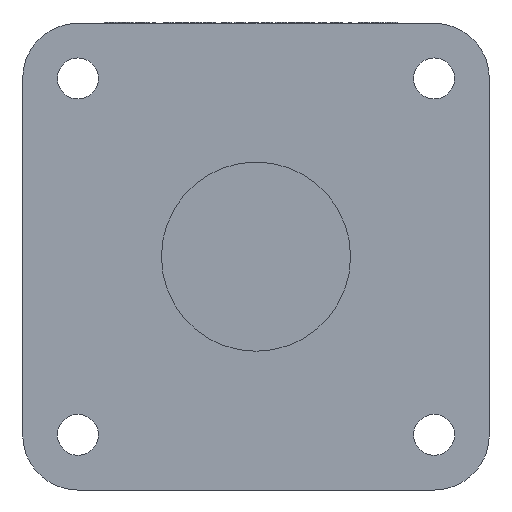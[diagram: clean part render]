
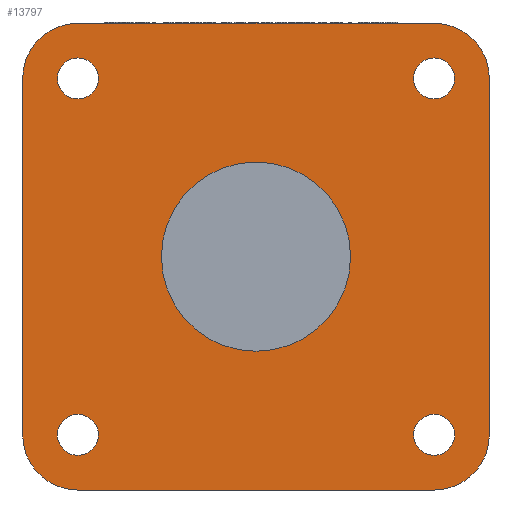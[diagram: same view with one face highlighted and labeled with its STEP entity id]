
A CAD part, left-side view. The second image highlights one B-rep face of the part: STEP entity #13797.
In plain terms, the highlighted planar face has unit normal (-1, 0, 0).
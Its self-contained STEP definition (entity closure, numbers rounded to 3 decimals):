
#12617=CARTESIAN_POINT('Line Origine',(-10.5,0.,37.)) ;
#12621=CARTESIAN_POINT('Vertex',(-10.5,28.25,37.)) ;
#12623=CARTESIAN_POINT('Vertex',(-10.5,-28.25,37.)) ;
#13372=CARTESIAN_POINT('Vertex',(-10.5,31.5,28.25)) ;
#13375=CARTESIAN_POINT('Axis2P3D Location',(-10.5,28.25,28.25)) ;
#13379=CARTESIAN_POINT('Vertex',(-10.5,25.,28.25)) ;
#13394=CARTESIAN_POINT('Axis2P3D Location',(-10.5,28.25,28.25)) ;
#13415=CARTESIAN_POINT('Vertex',(-10.5,31.5,-28.25)) ;
#13418=CARTESIAN_POINT('Axis2P3D Location',(-10.5,28.25,-28.25)) ;
#13422=CARTESIAN_POINT('Vertex',(-10.5,25.,-28.25)) ;
#13437=CARTESIAN_POINT('Axis2P3D Location',(-10.5,28.25,-28.25)) ;
#13458=CARTESIAN_POINT('Vertex',(-10.5,-31.5,-28.25)) ;
#13461=CARTESIAN_POINT('Axis2P3D Location',(-10.5,-28.25,-28.25)) ;
#13465=CARTESIAN_POINT('Vertex',(-10.5,-25.,-28.25)) ;
#13480=CARTESIAN_POINT('Axis2P3D Location',(-10.5,-28.25,-28.25)) ;
#13501=CARTESIAN_POINT('Vertex',(-10.5,-31.5,28.25)) ;
#13504=CARTESIAN_POINT('Axis2P3D Location',(-10.5,-28.25,28.25)) ;
#13508=CARTESIAN_POINT('Vertex',(-10.5,-25.,28.25)) ;
#13523=CARTESIAN_POINT('Axis2P3D Location',(-10.5,-28.25,28.25)) ;
#13681=CARTESIAN_POINT('Vertex',(-10.5,15.,0.)) ;
#13684=CARTESIAN_POINT('Axis2P3D Location',(-10.5,0.,0.)) ;
#13688=CARTESIAN_POINT('Vertex',(-10.5,-15.,0.)) ;
#13703=CARTESIAN_POINT('Axis2P3D Location',(-10.5,0.,0.)) ;
#13715=CARTESIAN_POINT('Axis2P3D Location',(-10.5,0.,0.)) ;
#13720=CARTESIAN_POINT('Axis2P3D Location',(-10.5,28.25,28.25)) ;
#13724=CARTESIAN_POINT('Vertex',(-10.5,37.,28.25)) ;
#13727=CARTESIAN_POINT('Line Origine',(-10.5,37.,0.)) ;
#13731=CARTESIAN_POINT('Vertex',(-10.5,37.,-28.25)) ;
#13734=CARTESIAN_POINT('Axis2P3D Location',(-10.5,28.25,-28.25)) ;
#13738=CARTESIAN_POINT('Vertex',(-10.5,28.25,-37.)) ;
#13741=CARTESIAN_POINT('Line Origine',(-10.5,0.,-37.)) ;
#13745=CARTESIAN_POINT('Vertex',(-10.5,-28.25,-37.)) ;
#13748=CARTESIAN_POINT('Axis2P3D Location',(-10.5,-28.25,-28.25)) ;
#13752=CARTESIAN_POINT('Vertex',(-10.5,-37.,-28.25)) ;
#13755=CARTESIAN_POINT('Line Origine',(-10.5,-37.,0.)) ;
#13759=CARTESIAN_POINT('Vertex',(-10.5,-37.,28.25)) ;
#13762=CARTESIAN_POINT('Axis2P3D Location',(-10.5,-28.25,28.25)) ;
#12618=DIRECTION('Vector Direction',(0.,1.,0.)) ;
#13376=DIRECTION('Axis2P3D Direction',(1.,0.,0.)) ;
#13395=DIRECTION('Axis2P3D Direction',(1.,0.,0.)) ;
#13419=DIRECTION('Axis2P3D Direction',(1.,0.,0.)) ;
#13438=DIRECTION('Axis2P3D Direction',(1.,0.,0.)) ;
#13462=DIRECTION('Axis2P3D Direction',(1.,0.,0.)) ;
#13481=DIRECTION('Axis2P3D Direction',(1.,0.,0.)) ;
#13505=DIRECTION('Axis2P3D Direction',(1.,0.,0.)) ;
#13524=DIRECTION('Axis2P3D Direction',(1.,0.,0.)) ;
#13685=DIRECTION('Axis2P3D Direction',(-1.,-0.,0.)) ;
#13704=DIRECTION('Axis2P3D Direction',(-1.,-0.,0.)) ;
#13716=DIRECTION('Axis2P3D Direction',(1.,0.,0.)) ;
#13717=DIRECTION('Axis2P3D XDirection',(0.,1.,0.)) ;
#13721=DIRECTION('Axis2P3D Direction',(1.,0.,0.)) ;
#13728=DIRECTION('Vector Direction',(0.,0.,1.)) ;
#13735=DIRECTION('Axis2P3D Direction',(1.,0.,0.)) ;
#13742=DIRECTION('Vector Direction',(0.,-1.,0.)) ;
#13749=DIRECTION('Axis2P3D Direction',(1.,0.,0.)) ;
#13756=DIRECTION('Vector Direction',(0.,0.,-1.)) ;
#13763=DIRECTION('Axis2P3D Direction',(1.,0.,0.)) ;
#13377=AXIS2_PLACEMENT_3D('Circle Axis2P3D',#13375,#13376,$) ;
#13396=AXIS2_PLACEMENT_3D('Circle Axis2P3D',#13394,#13395,$) ;
#13420=AXIS2_PLACEMENT_3D('Circle Axis2P3D',#13418,#13419,$) ;
#13439=AXIS2_PLACEMENT_3D('Circle Axis2P3D',#13437,#13438,$) ;
#13463=AXIS2_PLACEMENT_3D('Circle Axis2P3D',#13461,#13462,$) ;
#13482=AXIS2_PLACEMENT_3D('Circle Axis2P3D',#13480,#13481,$) ;
#13506=AXIS2_PLACEMENT_3D('Circle Axis2P3D',#13504,#13505,$) ;
#13525=AXIS2_PLACEMENT_3D('Circle Axis2P3D',#13523,#13524,$) ;
#13686=AXIS2_PLACEMENT_3D('Circle Axis2P3D',#13684,#13685,$) ;
#13705=AXIS2_PLACEMENT_3D('Circle Axis2P3D',#13703,#13704,$) ;
#13718=AXIS2_PLACEMENT_3D('Plane Axis2P3D',#13715,#13716,#13717) ;
#13722=AXIS2_PLACEMENT_3D('Circle Axis2P3D',#13720,#13721,$) ;
#13736=AXIS2_PLACEMENT_3D('Circle Axis2P3D',#13734,#13735,$) ;
#13750=AXIS2_PLACEMENT_3D('Circle Axis2P3D',#13748,#13749,$) ;
#13764=AXIS2_PLACEMENT_3D('Circle Axis2P3D',#13762,#13763,$) ;
#13768=ORIENTED_EDGE('',*,*,#12625,.F.) ;
#13769=ORIENTED_EDGE('',*,*,#13726,.F.) ;
#13770=ORIENTED_EDGE('',*,*,#13733,.F.) ;
#13771=ORIENTED_EDGE('',*,*,#13740,.F.) ;
#13772=ORIENTED_EDGE('',*,*,#13747,.F.) ;
#13773=ORIENTED_EDGE('',*,*,#13754,.F.) ;
#13774=ORIENTED_EDGE('',*,*,#13761,.F.) ;
#13775=ORIENTED_EDGE('',*,*,#13766,.F.) ;
#13778=ORIENTED_EDGE('',*,*,#13690,.F.) ;
#13779=ORIENTED_EDGE('',*,*,#13707,.F.) ;
#13782=ORIENTED_EDGE('',*,*,#13510,.T.) ;
#13783=ORIENTED_EDGE('',*,*,#13527,.T.) ;
#13786=ORIENTED_EDGE('',*,*,#13467,.T.) ;
#13787=ORIENTED_EDGE('',*,*,#13484,.T.) ;
#13790=ORIENTED_EDGE('',*,*,#13424,.T.) ;
#13791=ORIENTED_EDGE('',*,*,#13441,.T.) ;
#13794=ORIENTED_EDGE('',*,*,#13381,.T.) ;
#13795=ORIENTED_EDGE('',*,*,#13398,.T.) ;
#13780=FACE_BOUND('',#13777,.T.) ;
#13784=FACE_BOUND('',#13781,.T.) ;
#13788=FACE_BOUND('',#13785,.T.) ;
#13792=FACE_BOUND('',#13789,.T.) ;
#13796=FACE_BOUND('',#13793,.T.) ;
#12619=VECTOR('Line Direction',#12618,1.) ;
#13729=VECTOR('Line Direction',#13728,1.) ;
#13743=VECTOR('Line Direction',#13742,1.) ;
#13757=VECTOR('Line Direction',#13756,1.) ;
#13797=ADVANCED_FACE('PartBody',(#13776,#13780,#13784,#13788,#13792,#13796),#13719,.F.) ;
#13378=CIRCLE('generated circle',#13377,3.25) ;
#13397=CIRCLE('generated circle',#13396,3.25) ;
#13421=CIRCLE('generated circle',#13420,3.25) ;
#13440=CIRCLE('generated circle',#13439,3.25) ;
#13464=CIRCLE('generated circle',#13463,3.25) ;
#13483=CIRCLE('generated circle',#13482,3.25) ;
#13507=CIRCLE('generated circle',#13506,3.25) ;
#13526=CIRCLE('generated circle',#13525,3.25) ;
#13687=CIRCLE('generated circle',#13686,15.) ;
#13706=CIRCLE('generated circle',#13705,15.) ;
#13723=CIRCLE('generated circle',#13722,8.75) ;
#13737=CIRCLE('generated circle',#13736,8.75) ;
#13751=CIRCLE('generated circle',#13750,8.75) ;
#13765=CIRCLE('generated circle',#13764,8.75) ;
#12625=EDGE_CURVE('',#12622,#12624,#12620,.F.) ;
#13381=EDGE_CURVE('',#13380,#13373,#13378,.T.) ;
#13398=EDGE_CURVE('',#13373,#13380,#13397,.T.) ;
#13424=EDGE_CURVE('',#13423,#13416,#13421,.T.) ;
#13441=EDGE_CURVE('',#13416,#13423,#13440,.T.) ;
#13467=EDGE_CURVE('',#13466,#13459,#13464,.T.) ;
#13484=EDGE_CURVE('',#13459,#13466,#13483,.T.) ;
#13510=EDGE_CURVE('',#13509,#13502,#13507,.T.) ;
#13527=EDGE_CURVE('',#13502,#13509,#13526,.T.) ;
#13690=EDGE_CURVE('',#13682,#13689,#13687,.T.) ;
#13707=EDGE_CURVE('',#13689,#13682,#13706,.T.) ;
#13726=EDGE_CURVE('',#13725,#12622,#13723,.T.) ;
#13733=EDGE_CURVE('',#13732,#13725,#13730,.T.) ;
#13740=EDGE_CURVE('',#13739,#13732,#13737,.T.) ;
#13747=EDGE_CURVE('',#13746,#13739,#13744,.F.) ;
#13754=EDGE_CURVE('',#13753,#13746,#13751,.T.) ;
#13761=EDGE_CURVE('',#13760,#13753,#13758,.T.) ;
#13766=EDGE_CURVE('',#12624,#13760,#13765,.T.) ;
#13767=EDGE_LOOP('',(#13768,#13769,#13770,#13771,#13772,#13773,#13774,#13775)) ;
#13777=EDGE_LOOP('',(#13778,#13779)) ;
#13781=EDGE_LOOP('',(#13782,#13783)) ;
#13785=EDGE_LOOP('',(#13786,#13787)) ;
#13789=EDGE_LOOP('',(#13790,#13791)) ;
#13793=EDGE_LOOP('',(#13794,#13795)) ;
#13776=FACE_OUTER_BOUND('',#13767,.T.) ;
#12620=LINE('Line',#12617,#12619) ;
#13730=LINE('Line',#13727,#13729) ;
#13744=LINE('Line',#13741,#13743) ;
#13758=LINE('Line',#13755,#13757) ;
#13719=PLANE('',#13718) ;
#12622=VERTEX_POINT('',#12621) ;
#12624=VERTEX_POINT('',#12623) ;
#13373=VERTEX_POINT('',#13372) ;
#13380=VERTEX_POINT('',#13379) ;
#13416=VERTEX_POINT('',#13415) ;
#13423=VERTEX_POINT('',#13422) ;
#13459=VERTEX_POINT('',#13458) ;
#13466=VERTEX_POINT('',#13465) ;
#13502=VERTEX_POINT('',#13501) ;
#13509=VERTEX_POINT('',#13508) ;
#13682=VERTEX_POINT('',#13681) ;
#13689=VERTEX_POINT('',#13688) ;
#13725=VERTEX_POINT('',#13724) ;
#13732=VERTEX_POINT('',#13731) ;
#13739=VERTEX_POINT('',#13738) ;
#13746=VERTEX_POINT('',#13745) ;
#13753=VERTEX_POINT('',#13752) ;
#13760=VERTEX_POINT('',#13759) ;
